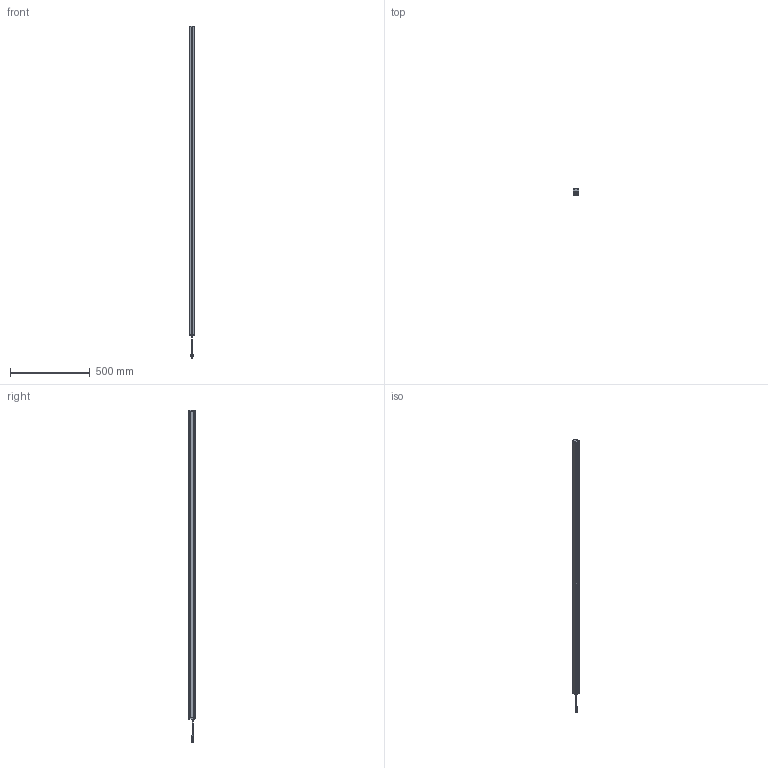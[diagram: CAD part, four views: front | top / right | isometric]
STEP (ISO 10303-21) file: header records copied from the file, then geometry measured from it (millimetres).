
FILE_DESCRIPTION((''),'2;1');
FILE_NAME('1920_ASM','2026-04-01T13:39:50',('Administrator'),(''),'CREO PARAMETRIC BY PTC INC, 2016510','CREO PARAMETRIC BY PTC INC, 2016510','');
FILE_SCHEMA(('AUTOMOTIVE_DESIGN { 1 0 10303 214 1 1 1 1 }'));
Length unit declared in the file: millimetre
Products named in the file (8): WK; SDG-V1_1_1; ST3-12_2_1_2_1_1_1_1_1_1_1; ASM0001_ASM; XDG-V1_1; 000_1_1_1_1_1_1_1_1; XDG002_ASM; 1920_ASM
Assembly tree (14 placements, depth 3):
  1920_ASM
    WK
    ASM0001_ASM
      SDG-V1_1_1
      ST3-12_2_1_2_1_1_1_1_1_1_1  x4
    XDG002_ASM
      XDG-V1_1
      000_1_1_1_1_1_1_1_1
      ST3-12_2_1_2_1_1_1_1_1_1_1  x4
Bounding box: 33 x 38 x 2081.9 mm (x, y, z)
Volume: 2097132.6 mm3; surface area: 417307.8 mm2
Topology: 12 solids, 12 shells, 823 faces, 2216 edges, 1412 vertices
Faces by surface type: plane 388, cylinder 235, extrusion 88, sphere 40, torus 36, cone 28, bspline 8
Entity records: 28063 total; most frequent: CARTESIAN_POINT 5622, ORIENTED_EDGE 3572, DIRECTION 3272, PRESENTATION_STYLE_ASSIGNMENT 1792, STYLED_ITEM 1791, CURVE_STYLE 1786, EDGE_CURVE 1786, VERTEX_POINT 1167
